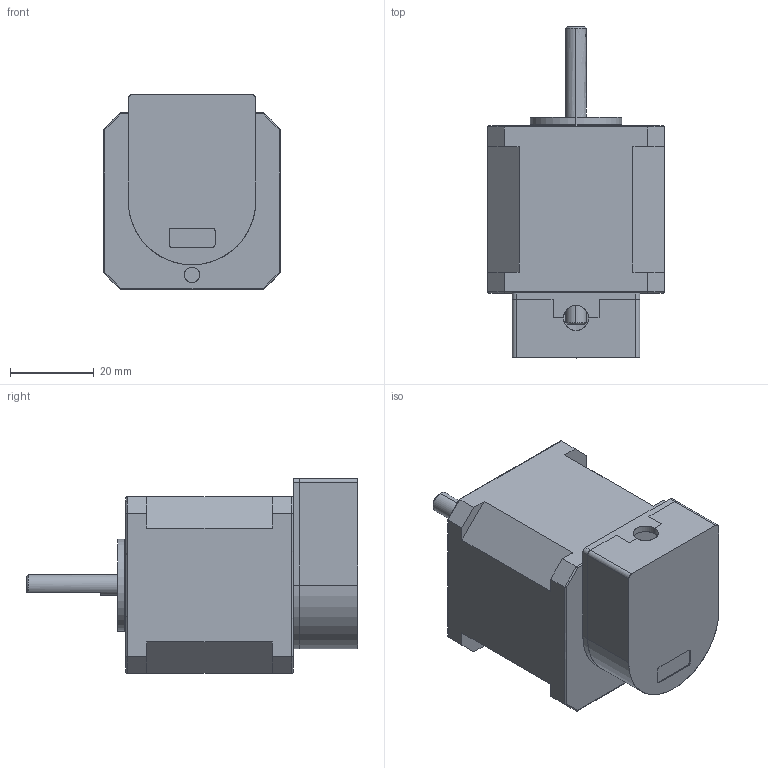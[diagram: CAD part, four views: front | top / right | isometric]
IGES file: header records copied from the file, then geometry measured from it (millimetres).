
Start section: SolidWorks IGES file using analytic representation for surfaces
Global section: file name: C:\Users\Christine\Documents\Arcus\Project #21\STM-17-2-E100\STM-17-2-E100 assy.IGS; native system: SolidWorks 2008; preprocessor: SolidWorks 2008; author: Christine; date: 131002.110950; units: millimetre
Bounding box: 42.3 x 79.38 x 46.64 mm (x, y, z)
Surface area: 18944.6 mm2 (no closed solid volume)
Topology: 0 solids, 0 shells, 174 faces, 2413 edges, 2397 vertices
Faces by surface type: revolution 101, bspline 73
